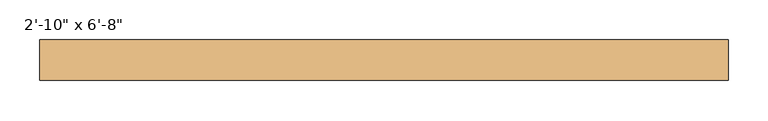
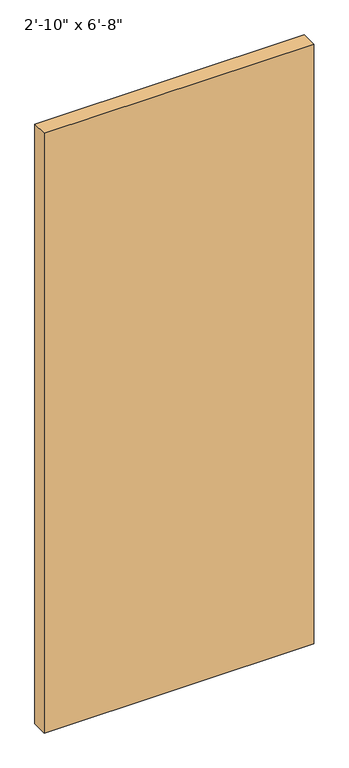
"""IFC4 building model written with IfcOpenShell, lengths in millimetres: door geometry."""

from ifc_helpers import new_model, si_unit, origin, origin_with_axes, place, context, project, spatial, polyline, outline, extrude, source, transform, mapped, element, save


def door_f7e807fb(model_context):
    return source(origin(), model_context, "Body", "SweptSolid", [
        extrude(outline(polyline([(431.8, 63.3), (-431.8, 63.3), (-431.8, 114.3), (431.8, 114.3), (431.8, 63.3)])), origin_with_axes(), (0.0, 0.0, 1.0), 2032.0),
    ])


if __name__ == "__main__":
    model = new_model("IFC4")
    model_context = context("Model", 3, world=origin())
    ifc_project = project(units=[si_unit("LENGTHUNIT", "METRE", prefix="MILLI")], contexts=[model_context])
    site = spatial("IfcSite", under=ifc_project)
    building = spatial("IfcBuilding", under=site)
    placement = place(None, origin())
    door_shape = door_f7e807fb(model_context)
    element("IfcDoor", 1, ObjectType="Planitar - Single Door_Flush Panel : 2'-10\" x 6'-8\"", at=placement, inside=building, context=model_context, shape_type="MappedRepresentation", body=[
        mapped(door_shape, transform((0.0, 0.0, 0.0), x_axis=(1.0, 0.0, 0.0), y_axis=(0.0, 1.0, 0.0), z_axis=(0.0, 0.0, 1.0))),
    ])
    save(model, "model.ifc")
